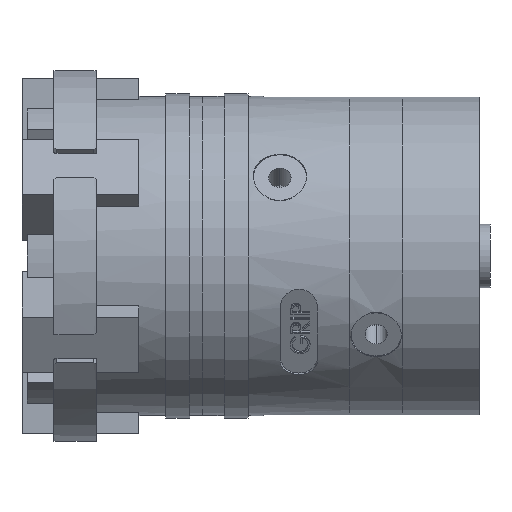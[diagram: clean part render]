
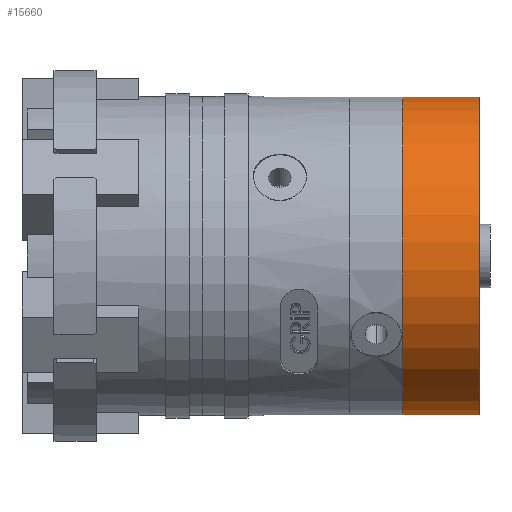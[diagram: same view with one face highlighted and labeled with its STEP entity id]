
A CAD part, left-side view. The second image highlights one B-rep face of the part: STEP entity #15660.
In plain terms, the highlighted cylindrical face has radius 30 mm (diameter 60 mm), a partial arc.
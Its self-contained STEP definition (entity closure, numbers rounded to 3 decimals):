
#585 = AXIS2_PLACEMENT_3D ( 'NONE', #7374, #11104, #12388 ) ;
#1229 = ORIENTED_EDGE ( 'NONE', *, *, #9089, .F. ) ;
#1350 = DIRECTION ( 'NONE',  ( 0., 1., 0. ) ) ;
#1462 = EDGE_CURVE ( 'NONE', #11288, #2406, #3043, .T. ) ;
#1961 = CARTESIAN_POINT ( 'NONE',  ( -2.5, -59., -29.896 ) ) ;
#2018 = CARTESIAN_POINT ( 'NONE',  ( -2.5, -44.6, -29.896 ) ) ;
#2114 = AXIS2_PLACEMENT_3D ( 'NONE', #3268, #3154, #15401 ) ;
#2132 = EDGE_CURVE ( 'NONE', #11288, #13216, #13244, .T. ) ;
#2406 = VERTEX_POINT ( 'NONE', #1961 ) ;
#2977 = DIRECTION ( 'NONE',  ( 0., 0., -1. ) ) ;
#3043 = CIRCLE ( 'NONE', #9439, 30. ) ;
#3154 = DIRECTION ( 'NONE',  ( 0., 1., 0. ) ) ;
#3268 = CARTESIAN_POINT ( 'NONE',  ( 0., -59., 0. ) ) ;
#3498 = CARTESIAN_POINT ( 'NONE',  ( -2.5, -44.6, 29.896 ) ) ;
#3874 = VERTEX_POINT ( 'NONE', #2018 ) ;
#4093 = ORIENTED_EDGE ( 'NONE', *, *, #7822, .T. ) ;
#4327 = ORIENTED_EDGE ( 'NONE', *, *, #2132, .T. ) ;
#4341 = DIRECTION ( 'NONE',  ( 0., -1., 0. ) ) ;
#4515 = CARTESIAN_POINT ( 'NONE',  ( -2.5, -59., 29.896 ) ) ;
#5129 = FACE_OUTER_BOUND ( 'NONE', #15666, .T. ) ;
#5607 = CIRCLE ( 'NONE', #585, 30. ) ;
#5888 = CYLINDRICAL_SURFACE ( 'NONE', #2114, 30. ) ;
#7160 = CARTESIAN_POINT ( 'NONE',  ( -2.5, -61., -29.896 ) ) ;
#7374 = CARTESIAN_POINT ( 'NONE',  ( 0., -44.6, 0. ) ) ;
#7822 = EDGE_CURVE ( 'NONE', #13216, #3874, #5607, .T. ) ;
#8032 = DIRECTION ( 'NONE',  ( 0., 1., 0. ) ) ;
#9089 = EDGE_CURVE ( 'NONE', #2406, #3874, #12053, .T. ) ;
#9355 = VECTOR ( 'NONE', #1350, 1000. ) ;
#9439 = AXIS2_PLACEMENT_3D ( 'NONE', #11371, #4341, #2977 ) ;
#9983 = VECTOR ( 'NONE', #8032, 1000. ) ;
#10092 = ORIENTED_EDGE ( 'NONE', *, *, #1462, .F. ) ;
#11104 = DIRECTION ( 'NONE',  ( 0., -1., 0. ) ) ;
#11288 = VERTEX_POINT ( 'NONE', #4515 ) ;
#11371 = CARTESIAN_POINT ( 'NONE',  ( 0., -59., 0. ) ) ;
#12053 = LINE ( 'NONE', #7160, #9355 ) ;
#12388 = DIRECTION ( 'NONE',  ( 0., 0., -1. ) ) ;
#13216 = VERTEX_POINT ( 'NONE', #3498 ) ;
#13244 = LINE ( 'NONE', #15338, #9983 ) ;
#15338 = CARTESIAN_POINT ( 'NONE',  ( -2.5, -61., 29.896 ) ) ;
#15401 = DIRECTION ( 'NONE',  ( 0., 0., 1. ) ) ;
#15660 = ADVANCED_FACE ( 'NONE', ( #5129 ), #5888, .T. ) ;
#15666 = EDGE_LOOP ( 'NONE', ( #10092, #4327, #4093, #1229 ) ) ;
